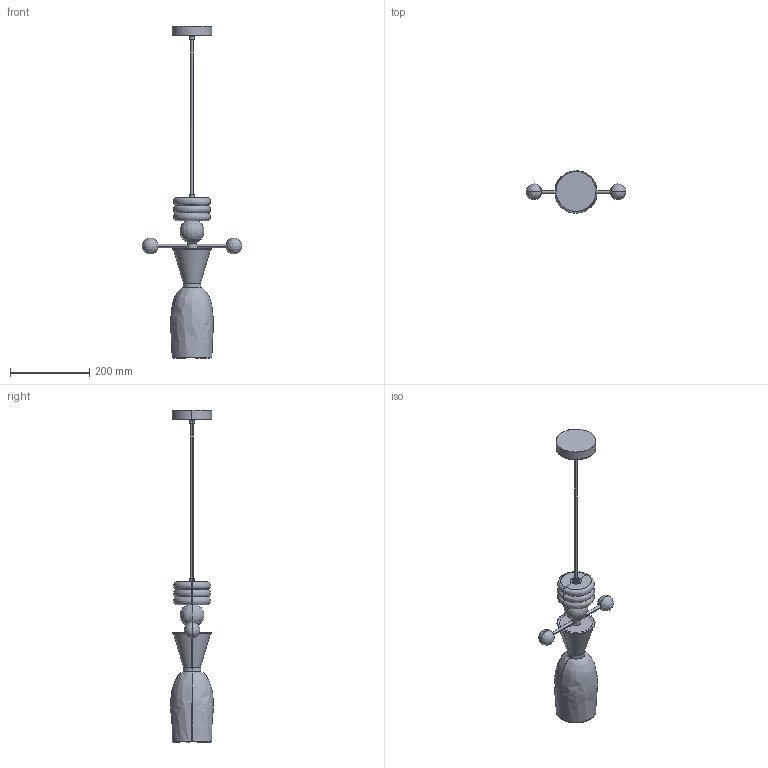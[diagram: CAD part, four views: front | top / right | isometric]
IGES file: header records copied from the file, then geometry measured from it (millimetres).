
Start section: SolidWorks IGES file using analytic representation for surfaces
Global section: file name: C:\Users\Agustin\Desktop\ARNOLD\SEPT 2025\2D-3D DEFINITIVO ONEDRIVE\2D-3D NURO_C1349\NURO_C1349.IGS; native system: SolidWorks 2018; preprocessor: SolidWorks 2018; author: Agustin; date: 250904.164635; units: millimetre
Bounding box: 250.95 x 107.97 x 836.61 mm (x, y, z)
Surface area: 396263.2 mm2 (no closed solid volume)
Topology: 0 solids, 0 shells, 855 faces, 7587 edges, 7575 vertices
Faces by surface type: bspline 853, revolution 2
